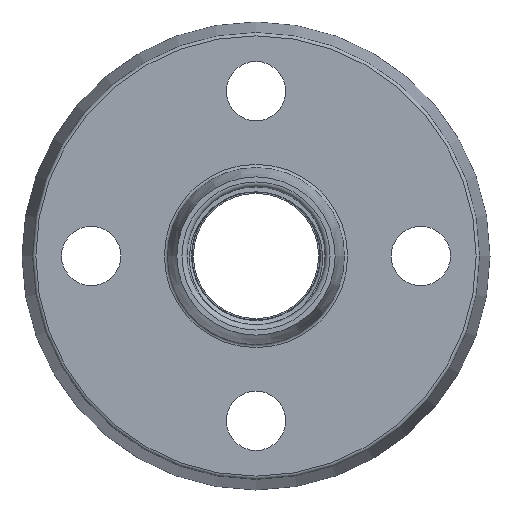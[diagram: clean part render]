
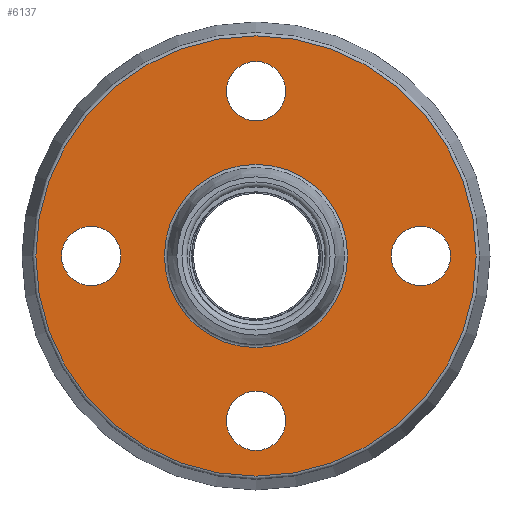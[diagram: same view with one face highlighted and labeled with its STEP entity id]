
A CAD part, left-side view. The second image highlights one B-rep face of the part: STEP entity #6137.
In plain terms, the highlighted planar face has unit normal (-1, 0, 0).
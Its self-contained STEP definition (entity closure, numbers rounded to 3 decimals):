
#74=FACE_BOUND('',#1640,.T.);
#75=FACE_BOUND('',#1641,.T.);
#76=FACE_BOUND('',#1642,.T.);
#77=FACE_BOUND('',#1643,.T.);
#78=FACE_BOUND('',#1644,.T.);
#137=PLANE('',#7239);
#1166=FACE_OUTER_BOUND('',#1639,.T.);
#1639=EDGE_LOOP('',(#5464));
#1640=EDGE_LOOP('',(#5465));
#1641=EDGE_LOOP('',(#5466));
#1642=EDGE_LOOP('',(#5467));
#1643=EDGE_LOOP('',(#5468));
#1644=EDGE_LOOP('',(#5469));
#2349=CIRCLE('',#7223,9.);
#2351=CIRCLE('',#7227,9.);
#2353=CIRCLE('',#7231,9.);
#2355=CIRCLE('',#7235,9.);
#2356=CIRCLE('',#7237,27.799);
#2358=CIRCLE('',#7240,66.805);
#2838=VERTEX_POINT('',#11419);
#2840=VERTEX_POINT('',#11425);
#2842=VERTEX_POINT('',#11431);
#2844=VERTEX_POINT('',#11437);
#2845=VERTEX_POINT('',#11440);
#2847=VERTEX_POINT('',#11445);
#3723=EDGE_CURVE('',#2838,#2838,#2349,.T.);
#3725=EDGE_CURVE('',#2840,#2840,#2351,.T.);
#3727=EDGE_CURVE('',#2842,#2842,#2353,.T.);
#3729=EDGE_CURVE('',#2844,#2844,#2355,.T.);
#3730=EDGE_CURVE('',#2845,#2845,#2356,.T.);
#3732=EDGE_CURVE('',#2847,#2847,#2358,.T.);
#5464=ORIENTED_EDGE('',*,*,#3732,.F.);
#5465=ORIENTED_EDGE('',*,*,#3725,.T.);
#5466=ORIENTED_EDGE('',*,*,#3727,.T.);
#5467=ORIENTED_EDGE('',*,*,#3729,.T.);
#5468=ORIENTED_EDGE('',*,*,#3723,.T.);
#5469=ORIENTED_EDGE('',*,*,#3730,.F.);
#6137=ADVANCED_FACE('',(#1166,#74,#75,#76,#77,#78),#137,.T.);
#7223=AXIS2_PLACEMENT_3D('',#11420,#9585,#9586);
#7227=AXIS2_PLACEMENT_3D('',#11426,#9593,#9594);
#7231=AXIS2_PLACEMENT_3D('',#11432,#9601,#9602);
#7235=AXIS2_PLACEMENT_3D('',#11438,#9609,#9610);
#7237=AXIS2_PLACEMENT_3D('',#11441,#9613,#9614);
#7239=AXIS2_PLACEMENT_3D('',#11444,#9617,#9618);
#7240=AXIS2_PLACEMENT_3D('',#11446,#9619,#9620);
#9585=DIRECTION('center_axis',(1.,0.,0.));
#9586=DIRECTION('ref_axis',(0.,0.,1.));
#9593=DIRECTION('center_axis',(1.,0.,0.));
#9594=DIRECTION('ref_axis',(0.,1.,0.));
#9601=DIRECTION('center_axis',(1.,0.,0.));
#9602=DIRECTION('ref_axis',(0.,0.,-1.));
#9609=DIRECTION('center_axis',(1.,0.,0.));
#9610=DIRECTION('ref_axis',(0.,-1.,0.));
#9613=DIRECTION('center_axis',(-1.,0.,0.));
#9614=DIRECTION('ref_axis',(0.,1.,0.));
#9617=DIRECTION('center_axis',(-1.,0.,0.));
#9618=DIRECTION('ref_axis',(0.,0.,1.));
#9619=DIRECTION('center_axis',(1.,0.,0.));
#9620=DIRECTION('ref_axis',(0.,1.,0.));
#11419=CARTESIAN_POINT('',(13.25,50.,9.));
#11420=CARTESIAN_POINT('Origin',(13.25,50.,0.));
#11425=CARTESIAN_POINT('',(13.25,9.,-50.));
#11426=CARTESIAN_POINT('Origin',(13.25,0.,-50.));
#11431=CARTESIAN_POINT('',(13.25,-50.,-9.));
#11432=CARTESIAN_POINT('Origin',(13.25,-50.,0.));
#11437=CARTESIAN_POINT('',(13.25,-9.,50.));
#11438=CARTESIAN_POINT('Origin',(13.25,0.,50.));
#11440=CARTESIAN_POINT('',(13.25,-27.799,0.));
#11441=CARTESIAN_POINT('Origin',(13.25,0.,0.));
#11444=CARTESIAN_POINT('Origin',(13.25,-27.,0.));
#11445=CARTESIAN_POINT('',(13.25,-66.805,0.));
#11446=CARTESIAN_POINT('Origin',(13.25,0.,0.));
